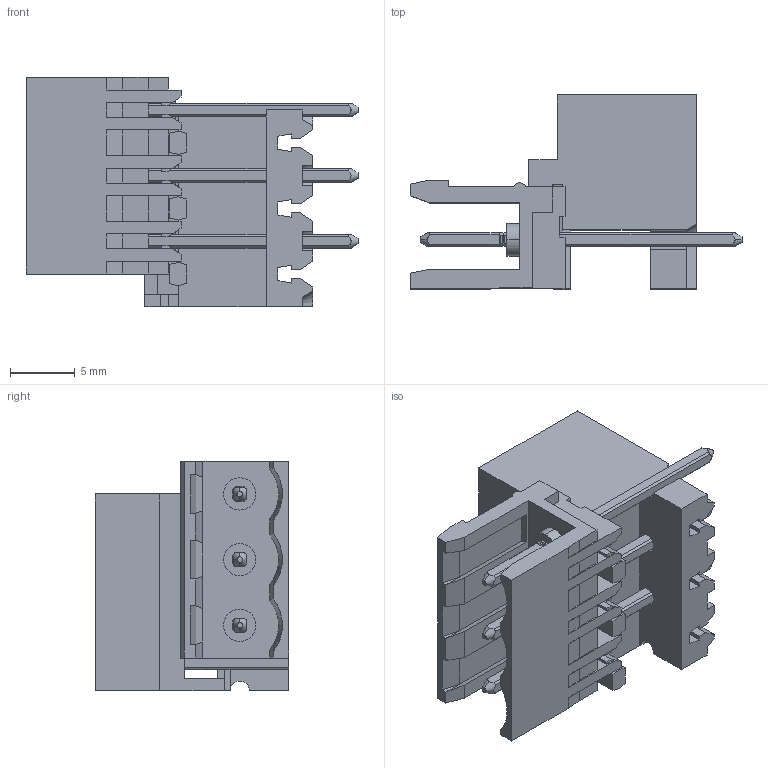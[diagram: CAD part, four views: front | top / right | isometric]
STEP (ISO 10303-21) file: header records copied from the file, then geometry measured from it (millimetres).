
FILE_DESCRIPTION (( 'STEP AP214' ), '1' );
FILE_NAME ('121-M-191-03.STEP', '2009-05-13T03:48:27', ( ' ' ), ( '' ), 'SwSTEP 2.0', 'SolidWorks 2007', '' );
FILE_SCHEMA (( 'AUTOMOTIVE_DESIGN' ));
Length unit declared in the file: millimetre
Products named in the file (1): 121-M-191-03
Bounding box: 25.7 x 15 x 17.78 mm (x, y, z)
Volume: 1521.6 mm3; surface area: 3590.6 mm2
Topology: 1 solids, 1 shells, 607 faces, 1881 edges, 1219 vertices
Faces by surface type: plane 564, cone 22, cylinder 21
Entity records: 20741 total; most frequent: CARTESIAN_POINT 4029, ORIENTED_EDGE 3754, DIRECTION 3094, EDGE_CURVE 1877, VECTOR 1738, LINE 1738, VERTEX_POINT 1217, AXIS2_PLACEMENT_3D 678
